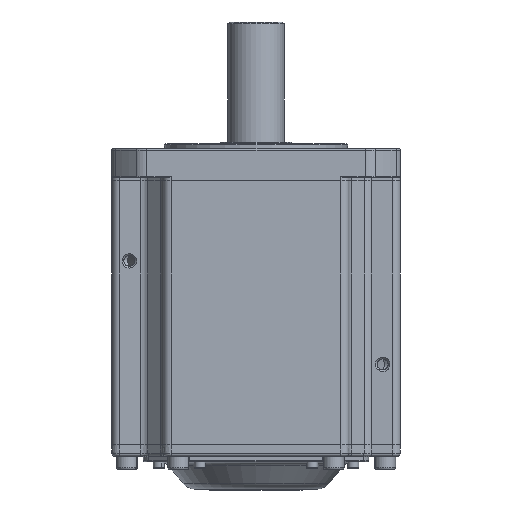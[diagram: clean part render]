
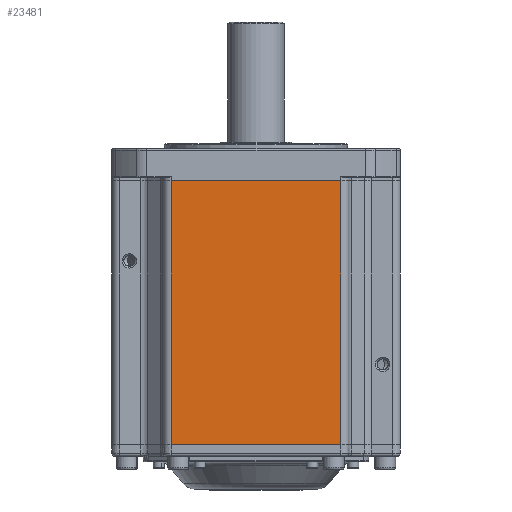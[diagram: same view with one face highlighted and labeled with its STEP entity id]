
A CAD part, front view. The second image highlights one B-rep face of the part: STEP entity #23481.
In plain terms, the highlighted planar face has unit normal (0, -1, 0).
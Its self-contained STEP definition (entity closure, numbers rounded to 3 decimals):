
#9 = ORIENTED_EDGE ( 'NONE', *, *, #59393, .T. ) ;
#5015 = CARTESIAN_POINT ( 'NONE',  ( -52.974, -89.007, 103.327 ) ) ;
#8498 = FACE_OUTER_BOUND ( 'NONE', #22987, .T. ) ;
#9103 = CARTESIAN_POINT ( 'NONE',  ( -154.318, -89.007, -61.273 ) ) ;
#9359 = ORIENTED_EDGE ( 'NONE', *, *, #42311, .T. ) ;
#15518 = CARTESIAN_POINT ( 'NONE',  ( 53.026, -89.007, -61.273 ) ) ;
#16068 = VECTOR ( 'NONE', #21143, 1000. ) ;
#16425 = DIRECTION ( 'NONE',  ( 0., 0., -1. ) ) ;
#16686 = VERTEX_POINT ( 'NONE', #15518 ) ;
#18678 = DIRECTION ( 'NONE',  ( 0., 1., 0. ) ) ;
#19852 = VECTOR ( 'NONE', #16425, 1000. ) ;
#20114 = VERTEX_POINT ( 'NONE', #56846 ) ;
#21143 = DIRECTION ( 'NONE',  ( 0., 0., 1. ) ) ;
#22987 = EDGE_LOOP ( 'NONE', ( #39482, #9359, #29654, #9 ) ) ;
#23481 = ADVANCED_FACE ( 'NONE', ( #8498 ), #37872, .F. ) ;
#24757 = CARTESIAN_POINT ( 'NONE',  ( 53.026, -89.007, 103.327 ) ) ;
#28544 = DIRECTION ( 'NONE',  ( 1., 0., 0. ) ) ;
#28679 = VERTEX_POINT ( 'NONE', #5015 ) ;
#28886 = EDGE_CURVE ( 'NONE', #28679, #20114, #60125, .T. ) ;
#29654 = ORIENTED_EDGE ( 'NONE', *, *, #33029, .T. ) ;
#33029 = EDGE_CURVE ( 'NONE', #16686, #61840, #56247, .T. ) ;
#33390 = CARTESIAN_POINT ( 'NONE',  ( 58.026, -89.007, -896.673 ) ) ;
#34913 = CARTESIAN_POINT ( 'NONE',  ( 58.026, -89.007, 103.327 ) ) ;
#35017 = AXIS2_PLACEMENT_3D ( 'NONE', #33390, #18678, #63189 ) ;
#36273 = CARTESIAN_POINT ( 'NONE',  ( -52.974, -89.007, -896.673 ) ) ;
#37872 = PLANE ( 'NONE',  #35017 ) ;
#39482 = ORIENTED_EDGE ( 'NONE', *, *, #28886, .T. ) ;
#42311 = EDGE_CURVE ( 'NONE', #20114, #16686, #63254, .T. ) ;
#45582 = CARTESIAN_POINT ( 'NONE',  ( 53.026, -89.007, -896.673 ) ) ;
#50244 = DIRECTION ( 'NONE',  ( -1., 0., 0. ) ) ;
#51884 = VECTOR ( 'NONE', #50244, 1000. ) ;
#54185 = LINE ( 'NONE', #34913, #51884 ) ;
#56247 = LINE ( 'NONE', #45582, #16068 ) ;
#56846 = CARTESIAN_POINT ( 'NONE',  ( -52.974, -89.007, -61.273 ) ) ;
#57038 = VECTOR ( 'NONE', #28544, 1000. ) ;
#59393 = EDGE_CURVE ( 'NONE', #61840, #28679, #54185, .T. ) ;
#60125 = LINE ( 'NONE', #36273, #19852 ) ;
#61840 = VERTEX_POINT ( 'NONE', #24757 ) ;
#63189 = DIRECTION ( 'NONE',  ( 0., 0., -1. ) ) ;
#63254 = LINE ( 'NONE', #9103, #57038 ) ;
